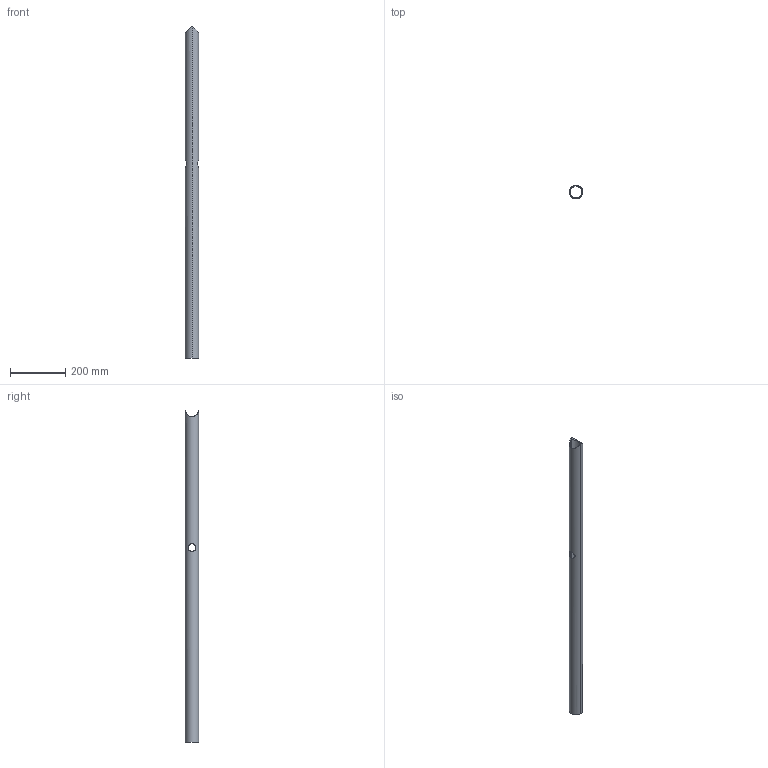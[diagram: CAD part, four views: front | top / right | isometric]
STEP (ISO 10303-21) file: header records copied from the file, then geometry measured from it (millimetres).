
FILE_DESCRIPTION (( 'STEP AP214' ), '1' );
FILE_NAME ('CCJ029-REP.348 - POTEAU GARDE CORPS AMOVIBLE A2-A3.STEP', '2025-11-04T12:32:04', ( '' ), ( '' ), 'SwSTEP 2.0', 'SolidWorks 2021', '' );
FILE_SCHEMA (( 'AUTOMOTIVE_DESIGN' ));
Length unit declared in the file: millimetre
Products named in the file (1): CCJ029-REP.348 - POTEAU GARDE CORPS AMOVIBLE A2-A3
Bounding box: 48.3 x 48.3 x 1205.85 mm (x, y, z)
Volume: 424432.3 mm3; surface area: 341094.5 mm2
Topology: 1 solids, 1 shells, 10 faces, 24 edges, 16 vertices
Faces by surface type: cylinder 9, plane 1
Entity records: 870 total; most frequent: CARTESIAN_POINT 609, ORIENTED_EDGE 48, DIRECTION 38, EDGE_CURVE 24, VERTEX_POINT 16, EDGE_LOOP 16, AXIS2_PLACEMENT_3D 15, B_SPLINE_CURVE_WITH_KNOTS 10
